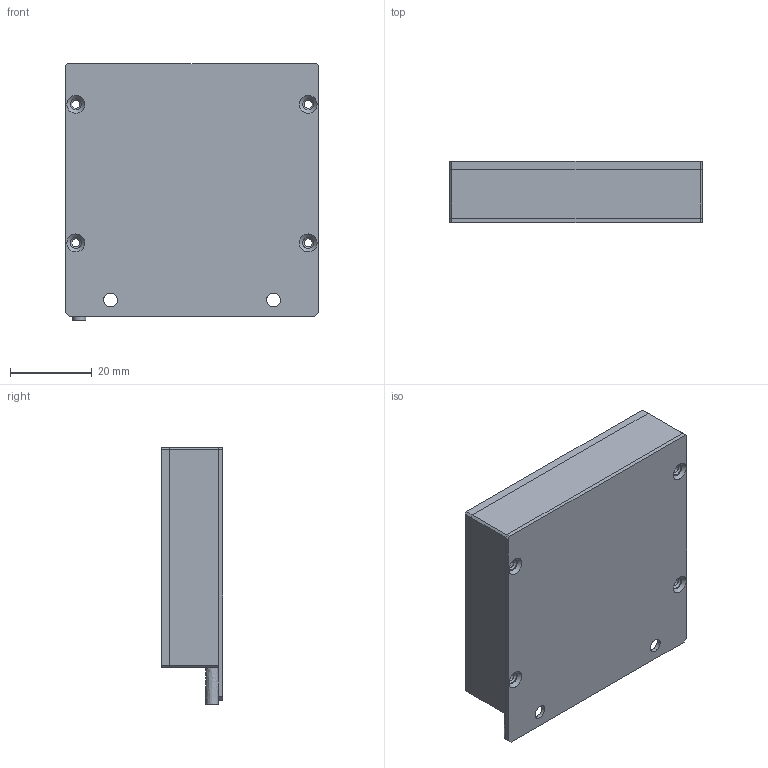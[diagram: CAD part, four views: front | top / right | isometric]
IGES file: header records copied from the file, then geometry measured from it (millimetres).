
Global section: file name: 153-01282_LF 51 xD-24-KFL5; native system: Autodesk Inventor 2018; preprocessor: unknown; author: ss; date: 20180725.103313; units: millimetre
Bounding box: 62 x 15 x 63 mm (x, y, z)
Volume: 19986.5 mm3; surface area: 19562.5 mm2
Topology: 2 solids, 2 shells, 92 faces, 261 edges, 180 vertices
Faces by surface type: bspline 92
